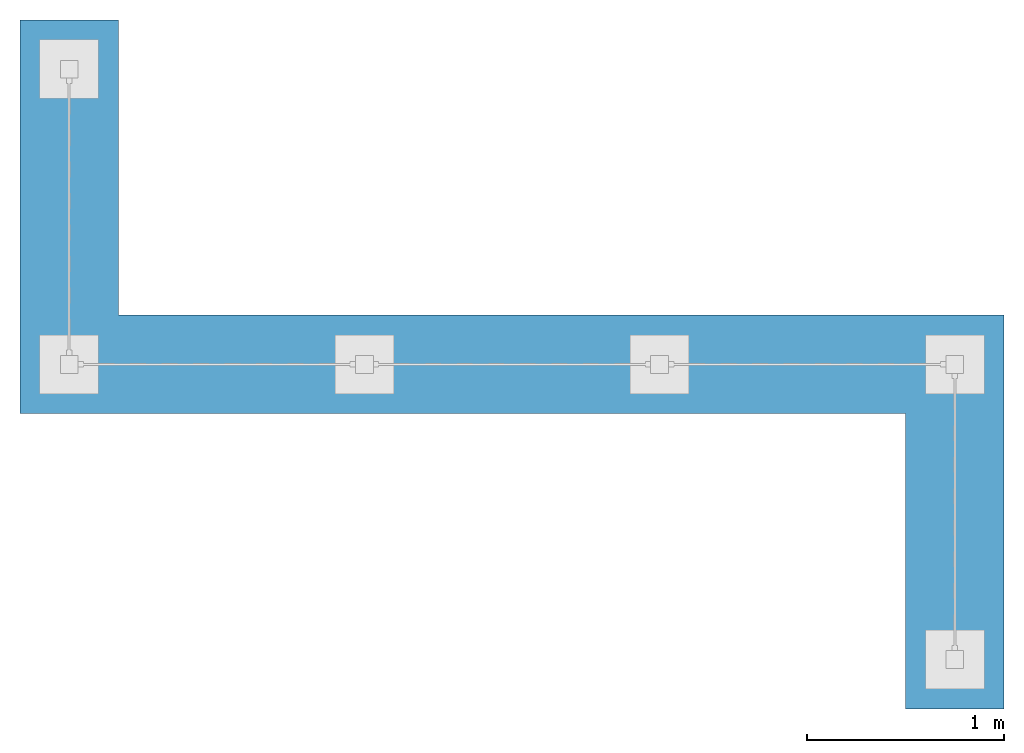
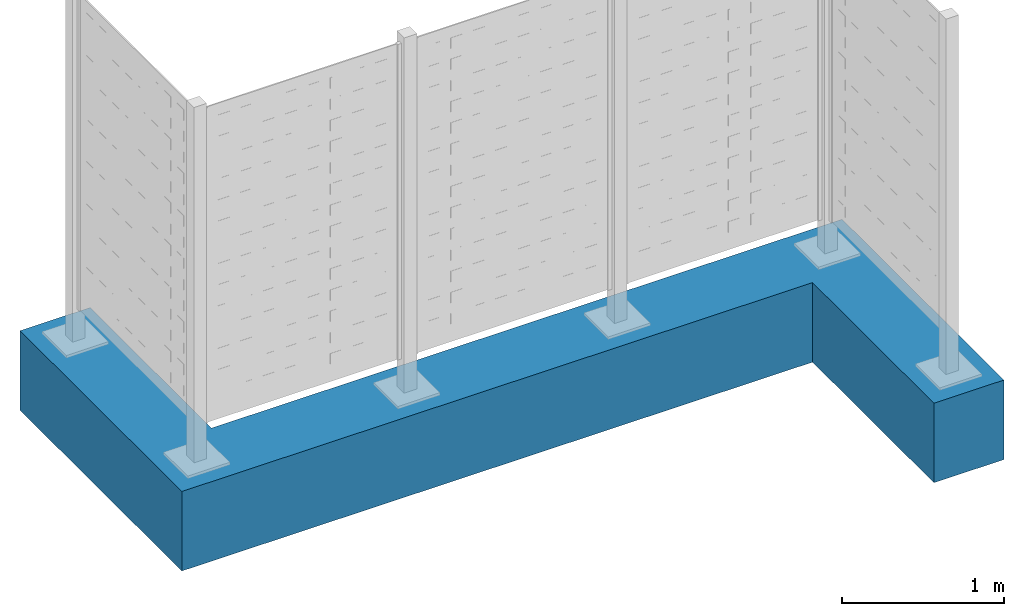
# One storey, incomplete: 1 slab.
"""IFC4 building model written with IfcOpenShell, lengths in metres."""

import ifcopenshell
import ifcopenshell.guid

model = None  # the IFC model being written
_history = None  # IfcOwnerHistory: only IFC2X3 demands one
_inside = {}  # id of a spatial element -> (the spatial element, [elements in it])
_under = {}  # id of a project, library or spatial element -> (it, [spatial elements below it])
_declared = {}  # id of a project -> (the project, [libraries it declares])
_typed = {}  # id of a type object -> (the type object, [elements of that type])
_made_of = {}  # id of a material, layer set ... -> (it, [elements and type objects made of it])


def new_model(schema):
    """Start an empty IFC model of exactly this schema.

    Asked for "IFC4X3", IfcOpenShell would pick the latest addendum, in which some entities
    have other attributes; the version numbers below select the first issue.
    IFC2X3 requires an IfcOwnerHistory on every rooted entity: one is made here for all.
    """
    global model, _history
    if schema == "IFC4X3":
        model = ifcopenshell.file(schema_version=(4, 3, 0, 0))
    else:
        model = ifcopenshell.file(schema=schema)
    _inside.clear()
    _under.clear()
    _declared.clear()
    _typed.clear()
    _made_of.clear()
    _history = None
    if model.schema == "IFC2X3":
        org = make("IfcOrganization", Name="unknown")
        user = make(
            "IfcPersonAndOrganization",
            ThePerson=make("IfcPerson", FamilyName="unknown"),
            TheOrganization=org,
        )
        app = make(
            "IfcApplication",
            ApplicationDeveloper=org,
            Version="unknown",
            ApplicationFullName="unknown",
            ApplicationIdentifier="unknown",
        )
        _history = make(
            "IfcOwnerHistory",
            OwningUser=user,
            OwningApplication=app,
            ChangeAction="ADDED",
            CreationDate=0,
        )
    return model


def make(cls, **values):
    """One entity of the class cls with the attributes given. An attribute that is None is left unset."""
    return model.create_entity(
        cls, **{name: value for name, value in values.items() if value is not None}
    )


def entity(cls, *values):
    """Any entity or typed value of the class cls, its attributes in the order of the schema. None: left unset."""
    e = model.create_entity(cls)
    for i, value in enumerate(values):
        if value is not None:
            e[i] = value
    return e


def rooted(cls, **values):
    """An entity with a GlobalId (a new one), such as an element, a storey or a relation."""
    return make(cls, GlobalId=ifcopenshell.guid.new(), OwnerHistory=_history, **values)


def si_unit(unit_type, name, prefix=None):
    """IfcSIUnit, for example si_unit("LENGTHUNIT", "METRE", prefix="MILLI")."""
    return make("IfcSIUnit", UnitType=unit_type, Prefix=prefix, Name=name)


def converted_unit(unit_type, name, factor, base, dimensions=None, offset=None):
    """IfcConversionBasedUnit, such as the inch: factor (a typed value) times the base unit."""
    return make(
        "IfcConversionBasedUnit"
        if offset is None
        else "IfcConversionBasedUnitWithOffset",
        ConversionOffset=offset,
        Dimensions=None
        if dimensions is None
        else entity("IfcDimensionalExponents", *dimensions),
        UnitType=unit_type,
        Name=name,
        ConversionFactor=make(
            "IfcMeasureWithUnit", ValueComponent=factor, UnitComponent=base
        ),
    )


def assignment(units):
    """IfcUnitAssignment: the units of a project."""
    return None if units is None else make("IfcUnitAssignment", Units=units)


def point(xyz):
    """IfcCartesianPoint."""
    return None if xyz is None else make("IfcCartesianPoint", Coordinates=xyz)


def direction(xyz):
    """IfcDirection."""
    return None if xyz is None else make("IfcDirection", DirectionRatios=xyz)


def frame(location, z_axis=None, x_axis=None):
    """IfcAxis2Placement3D, a coordinate frame: its origin and axes. An axis left out is left unset."""
    return make(
        "IfcAxis2Placement3D",
        Location=point(location),
        Axis=direction(z_axis),
        RefDirection=direction(x_axis),
    )


def origin():
    """The frame at (0, 0, 0) with its axes left unset."""
    return frame((0.0, 0.0, 0.0))


def place(relative_to, where):
    """IfcLocalPlacement: puts the frame where relative to a parent placement (None: the world)."""
    return make(
        "IfcLocalPlacement", PlacementRelTo=relative_to, RelativePlacement=where
    )


def context(
    kind, dimensions, precision=None, world=None, true_north=None, identifier=None
):
    """IfcGeometricRepresentationContext, for example the 3D "Model" context."""
    return make(
        "IfcGeometricRepresentationContext",
        ContextIdentifier=identifier,
        ContextType=kind,
        CoordinateSpaceDimension=dimensions,
        Precision=precision,
        WorldCoordinateSystem=world,
        TrueNorth=true_north,
    )


def subcontext(parent, identifier, kind, view, scale=None):
    """IfcGeometricRepresentationSubContext, for example "Body" below "Model"."""
    return make(
        "IfcGeometricRepresentationSubContext",
        ContextIdentifier=identifier,
        ContextType=kind,
        ParentContext=parent,
        TargetScale=scale,
        TargetView=view,
    )


def project(units=None, contexts=None):
    """IfcProject with its units and contexts."""
    return rooted(
        "IfcProject",
        Name="project",
        RepresentationContexts=contexts,
        UnitsInContext=assignment(units),
    )


def spatial(cls, under=None, at=None, **own):
    """A site, building, storey or space (cls), placed at a placement, below another one or the project."""
    s = rooted(cls, ObjectPlacement=at, **own)
    if under is not None:
        _under.setdefault(under.id(), (under, []))[1].append(s)
    return s


def polyline(points):
    """IfcPolyline through the points."""
    return make("IfcPolyline", Points=[point(p) for p in points])


def outline(outer, holes=None, kind="AREA"):
    """IfcArbitraryClosedProfileDef: a profile drawn as a closed curve; with holes, ...WithVoids."""
    if holes is None:
        return make("IfcArbitraryClosedProfileDef", ProfileType=kind, OuterCurve=outer)
    return make(
        "IfcArbitraryProfileDefWithVoids",
        ProfileType=kind,
        OuterCurve=outer,
        InnerCurves=holes,
    )


def extrude(swept, where, along, depth):
    """IfcExtrudedAreaSolid: the profile swept, set in the frame where, extruded along a direction by depth."""
    return make(
        "IfcExtrudedAreaSolid",
        SweptArea=swept,
        Position=where,
        ExtrudedDirection=direction(along),
        Depth=depth,
    )


def shape(context_of_items, identifier, shape_type, items):
    """IfcShapeRepresentation: the items that make up one representation, for example the "Body"."""
    return make(
        "IfcShapeRepresentation",
        ContextOfItems=context_of_items,
        RepresentationIdentifier=identifier,
        RepresentationType=shape_type,
        Items=items,
    )


def material(Name=None, Category=None):
    """IfcMaterial."""
    return make("IfcMaterial", Name=Name, Category=Category)


def made_of(thing, what):
    """Note that an element or type object is made of a material, layer set ...; save() writes the relation."""
    if what is not None:
        _made_of.setdefault(what.id(), (what, []))[1].append(thing)
    return thing


def type_object(cls, material=None, **own):
    """A type object (cls), such as IfcWallType, which elements share."""
    return made_of(rooted(cls, **own), material)


def element(
    cls,
    number,
    at=None,
    inside=None,
    cuts=None,
    type_object=None,
    material=None,
    context=None,
    identifier="Body",
    shape_type=None,
    held_by="IfcProductDefinitionShape",
    body=None,
    shapes=None,
    **own,
):
    """One element of the class cls, such as IfcWall. Its Tag is "e" and its number.

    at: its placement. inside: the storey or other place that contains it. cuts: it is an
    opening in that element (IfcRelVoidsElement). A single representation is given by context,
    identifier, shape_type and body (its items); several are given by shapes. held_by: the class
    of the entity that holds the representations. save() writes the other relations.
    """
    e = rooted(cls, Tag="e%d" % number, ObjectPlacement=at, **own)
    if body is not None:
        shapes = [shape(context, identifier, shape_type, body)]
    if shapes is not None:
        e.Representation = make(held_by, Representations=shapes)
    if inside is not None:
        _inside.setdefault(inside.id(), (inside, []))[1].append(e)
    if cuts is not None:
        rooted(
            "IfcRelVoidsElement", RelatingBuildingElement=cuts, RelatedOpeningElement=e
        )
    if type_object is not None:
        _typed.setdefault(type_object.id(), (type_object, []))[1].append(e)
    return made_of(e, material)


def aggregate(whole, parts):
    """IfcRelAggregates: a whole, such as a stair, and the parts it consists of."""
    return rooted("IfcRelAggregates", RelatingObject=whole, RelatedObjects=parts)


def save(model, path):
    """Write the relations noted so far, then the file.

    IfcRelAggregates (storeys below a building ...), IfcRelContainedInSpatialStructure (elements
    in a storey), IfcRelDefinesByType, IfcRelAssociatesMaterial and IfcRelDeclares: one each for
    every whole, place, type object, material and project.
    """
    for whole, parts in _under.values():
        aggregate(whole, parts)
    for where, things in _inside.values():
        rooted(
            "IfcRelContainedInSpatialStructure",
            RelatedElements=things,
            RelatingStructure=where,
        )
    for kind, things in _typed.values():
        rooted("IfcRelDefinesByType", RelatedObjects=things, RelatingType=kind)
    for what, things in _made_of.values():
        rooted("IfcRelAssociatesMaterial", RelatedObjects=things, RelatingMaterial=what)
    for by, libraries in _declared.values():
        rooted("IfcRelDeclares", RelatingContext=by, RelatedDefinitions=libraries)
    model.write(path)


model = new_model("IFC4")

# Units and contexts
model_context = context("Model", 3, precision=1e-05, world=origin(), true_north=direction((6.123031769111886e-17, 1.0)))
body_context = subcontext(model_context, "Body", "Model", "MODEL_VIEW")
ifc_project = project(units=[si_unit("LENGTHUNIT", "METRE"), converted_unit("PLANEANGLEUNIT", "DEGREE", entity("IfcPlaneAngleMeasure", 0.017453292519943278), si_unit("PLANEANGLEUNIT", "RADIAN"), dimensions=[0, 0, 0, 0, 0, 0, 0]), si_unit("AREAUNIT", "SQUARE_METRE")], contexts=[model_context])

# Site, building, storey
site_placement = place(None, origin())
site = spatial("IfcSite", under=ifc_project, at=site_placement, Name="Default", CompositionType="ELEMENT")
building_placement = place(site_placement, origin())
building = spatial("IfcBuilding", under=site, at=building_placement, CompositionType="ELEMENT")
storey_placement = place(building_placement, origin())
storey = spatial("IfcBuildingStorey", under=building, at=storey_placement, Name="DB_Bezugshoehe_max_Bahnsteigkante", CompositionType="ELEMENT", Elevation=0.0)

# Slab
ifc_material = material(Name="DB_Ortbeton", Category="DB_Beton")
slab_type = type_object("IfcSlabType", Name="DB_Windschutz_3-feldrig_S_Fundament:DB_Windschutz_3-feldrig_S_Fundament", PredefinedType="BASESLAB", material=ifc_material)
slab_placement = place(storey_placement, origin())
element("IfcSlab", 1, at=slab_placement, inside=storey, type_object=slab_type, Name="DB_Windschutz_3-feldrig_S_Fundament:DB_Windschutz_3-feldrig_S_Fundament", ObjectType="DB_Windschutz_3-feldrig_S_Fundament:DB_Windschutz_3-feldrig_S_Fundament", PredefinedType="BASESLAB", context=body_context, shape_type="SweptSolid", body=[
    extrude(outline(polyline([(0.5120000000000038, 0.24999999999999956), (-2.6280000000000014, 0.2500000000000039), (-2.6280000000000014, -1.7500000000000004), (-2.128, -1.7500000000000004), (-2.128, -0.2500000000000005), (0.5120000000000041, -0.25000000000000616), (2.371999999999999, -0.24999999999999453), (2.371999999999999, 1.7499999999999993), (1.871999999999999, 1.7499999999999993), (1.871999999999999, 0.24999999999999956), (0.5120000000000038, 0.24999999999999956)])), frame((2.121999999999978, 0.0, 0.0), z_axis=(0.0, 0.0, -1.0), x_axis=(-1.0, 0.0, 0.0)), (0.0, 0.0, -1.0), 0.5999999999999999),
])

save(model, "model.ifc")
